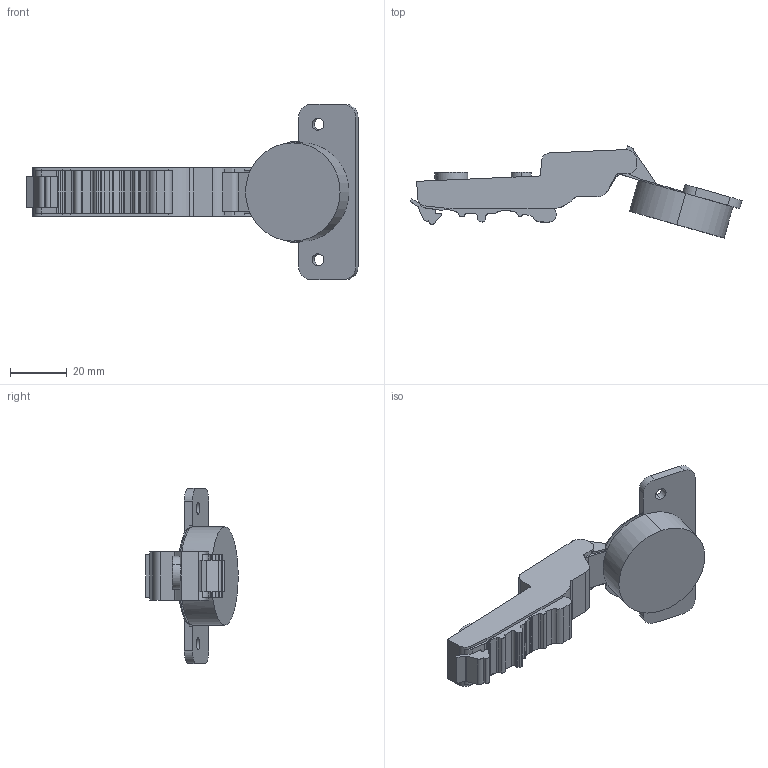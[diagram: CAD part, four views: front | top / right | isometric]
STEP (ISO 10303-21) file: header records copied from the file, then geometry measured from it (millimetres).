
FILE_DESCRIPTION (( 'STEP AP203' ), '1' );
FILE_NAME ('C82B676FA-DTC 3D open.STEP', '2024-09-07T00:32:46', ( '微软用户' ), ( '微软中国' ), 'SwSTEP 2.0', 'SolidWorks 2021', '' );
FILE_SCHEMA (( 'CONFIG_CONTROL_DESIGN' ));
Length unit declared in the file: millimetre
Products named in the file (1): C82B676FA-DTC 3D open
Bounding box: 117.52 x 32.66 x 61.96 mm (x, y, z)
Volume: 34098.6 mm3; surface area: 11235.7 mm2
Topology: 1 solids, 1 shells, 150 faces, 434 edges, 288 vertices
Faces by surface type: cylinder 75, plane 75
Entity records: 5070 total; most frequent: CARTESIAN_POINT 900, DIRECTION 882, ORIENTED_EDGE 868, EDGE_CURVE 434, AXIS2_PLACEMENT_3D 306, VERTEX_POINT 288, LINE 270, VECTOR 270
